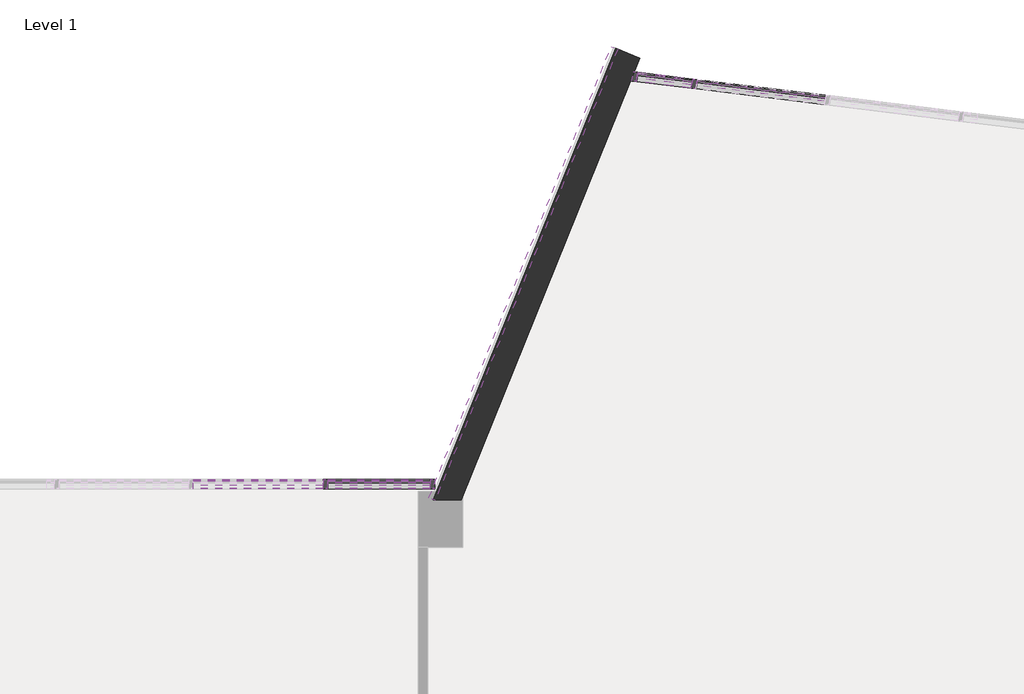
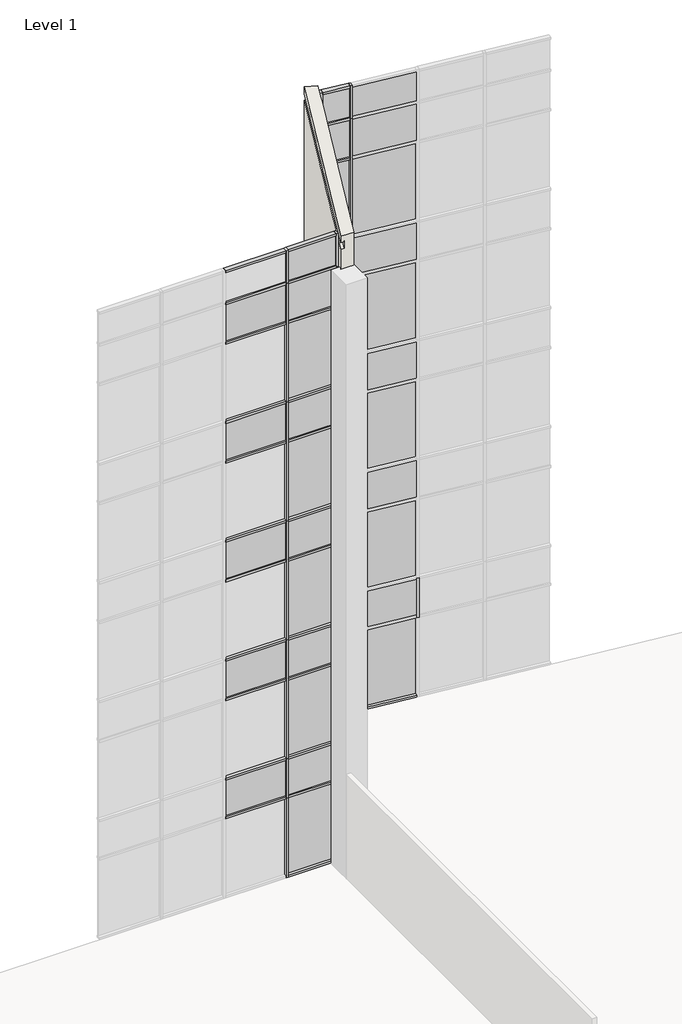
# One storey, part 15 of 23: 65 members, 38 plates, 3 proxies, 1 wall.
"""IFC4 building model written with IfcOpenShell, lengths in millimetres."""

from ifc_helpers import new_model, si_unit, frame, origin, place, context, project, spatial, polyline, outline, extrude, faceted_brep, transform, mapped, element, save
from components import member_2b49869a, member_f92b8aa2, member_810865a4, member_f0fea5a5, member_6d5c3e5e, member_9764dd38, member_8e09d03a, member_4d31274b, member_9db209c3, member_bbc63846, member_ee409385, member_75074519, member_2adbf4d9, member_705e9429, system_panel_glazed_14c75400, system_panel_glazed_df53f363, system_panel_glazed_6d390525, system_panel_solid_5dfe6f83, system_panel_solid_e25e2004, system_panel_solid_b7551183, system_panel_solid_cf908f75, system_panel_solid_7b03d3b8, system_panel_solid_c28df52d, system_panel_solid_db451ef0, system_panel_solid_2f6d7fa1, system_panel_solid_37f52b2b

model = new_model("IFC4")

# Units and contexts
model_context = context("Model", 3, world=origin())
ifc_project = project(units=[si_unit("LENGTHUNIT", "METRE", prefix="MILLI")], contexts=[model_context])

# Site, building, storey
site = spatial("IfcSite", under=ifc_project)
building = spatial("IfcBuilding", under=site)
storey = spatial("IfcBuildingStorey", under=building, Name="Level 1", Elevation=0.0)

# Proxies
placement = place(None, origin())
element("IfcBuildingElementProxy", 1, Name="Reveals", at=placement, inside=storey, context=model_context, shape_type="SweptSolid", body=[
    extrude(outline(polyline([(-32824.629873, 9795.5496433), (-32910.0003265, 9830.0415454), (-30426.2719644, 15977.4849617), (-30340.901511, 15942.9930596), (-32824.629873, 9795.5496433)])), frame((0.0, 0.0, 1625.6), z_axis=(0.0, 0.0, 1.0), x_axis=(1.0, 0.0, 0.0)), (0.0, 0.0, 1.0), 67.7333333),
])
element("IfcBuildingElementProxy", 2, Name="Reveals", at=placement, inside=storey, context=model_context, shape_type="SweptSolid", body=[
    extrude(outline(polyline([(-32824.629873, 9795.5496433), (-32910.0003265, 9830.0415454), (-30426.2719644, 15977.4849617), (-30340.901511, 15942.9930596), (-32824.629873, 9795.5496433)])), frame((0.0, 0.0, 2235.2), z_axis=(0.0, 0.0, 1.0), x_axis=(1.0, 0.0, 0.0)), (0.0, 0.0, 1.0), 67.7333333),
])
element("IfcBuildingElementProxy", 3, Name="Reveals", at=placement, inside=storey, context=model_context, shape_type="SweptSolid", body=[
    extrude(outline(polyline([(-32824.629873, 9795.5496433), (-32910.0003265, 9830.0415454), (-30426.2719644, 15977.4849617), (-30340.901511, 15942.9930596), (-32824.629873, 9795.5496433)])), frame((0.0, 0.0, 2844.8), z_axis=(0.0, 0.0, 1.0), x_axis=(1.0, 0.0, 0.0)), (0.0, 0.0, 1.0), 67.7333333),
])

# Members
member_shape = member_2b49869a(model_context)
element("IfcMember", 4, ObjectType="Rectangular Mullion : 2.5\" x 5\" rectangular", at=placement, inside=storey, context=model_context, shape_type="MappedRepresentation", body=[
    mapped(member_shape, transform((-27482.5203826, 15245.7903744, 2438.4), x_axis=(0.9925461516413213, -0.12186934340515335, 0.0), y_axis=(-0.12186934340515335, -0.9925461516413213, 0.0), z_axis=(0.0, 0.0, -1.0))),
])
element("IfcMember", 5, ObjectType="Rectangular Mullion : 2.5\" x 5\" rectangular", at=placement, inside=storey, context=model_context, shape_type="MappedRepresentation", body=[
    mapped(member_shape, transform((-29297.6887847, 15468.6650296, 2438.4), x_axis=(0.9925461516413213, -0.12186934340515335, 0.0), y_axis=(-0.12186934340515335, -0.9925461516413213, 0.0), z_axis=(0.0, 0.0, -1.0))),
])
element("IfcMember", 6, ObjectType="Rectangular Mullion : 2.5\" x 5\" rectangular", at=placement, inside=storey, context=model_context, shape_type="MappedRepresentation", body=[
    mapped(member_shape, transform((-34316.2623649, 10017.7896508, 2438.4), x_axis=(1.0, 0.0, 0.0), y_axis=(0.0, -1.0, 0.0), z_axis=(0.0, 0.0, -1.0))),
])
member_2_shape = member_f92b8aa2(model_context)
element("IfcMember", 7, ObjectType="Rectangular Mullion : 2.5\" x 5\" rectangular", at=placement, inside=storey, context=model_context, shape_type="MappedRepresentation", body=[
    mapped(member_2_shape, transform((-29297.6887847, 15468.6650296, 18288.0), x_axis=(0.9925461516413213, -0.12186934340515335, 0.0), y_axis=(-0.12186934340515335, -0.9925461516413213, 0.0), z_axis=(0.0, 0.0, -1.0))),
])
element("IfcMember", 8, ObjectType="Rectangular Mullion : 2.5\" x 5\" rectangular", at=placement, inside=storey, context=model_context, shape_type="MappedRepresentation", body=[
    mapped(member_2_shape, transform((-34316.2623649, 10017.7896508, 18288.0), x_axis=(1.0, 0.0, 0.0), y_axis=(0.0, -1.0, 0.0), z_axis=(0.0, 0.0, -1.0))),
])
member_3_shape = member_810865a4(model_context)
element("IfcMember", 9, ObjectType="Rectangular Mullion : 2.5\" x 5\" rectangular", at=placement, inside=storey, context=model_context, shape_type="MappedRepresentation", body=[
    mapped(member_3_shape, transform((-29297.6887847, 15468.6650296, 14630.4), x_axis=(0.9925461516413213, -0.12186934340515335, 0.0), y_axis=(-0.12186934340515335, -0.9925461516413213, 0.0), z_axis=(0.0, 0.0, -1.0))),
])
element("IfcMember", 10, ObjectType="Rectangular Mullion : 2.5\" x 5\" rectangular", at=placement, inside=storey, context=model_context, shape_type="MappedRepresentation", body=[
    mapped(member_3_shape, transform((-29297.6887847, 15468.6650296, 10972.8), x_axis=(0.9925461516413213, -0.12186934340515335, 0.0), y_axis=(-0.12186934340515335, -0.9925461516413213, 0.0), z_axis=(0.0, 0.0, -1.0))),
])
element("IfcMember", 11, ObjectType="Rectangular Mullion : 2.5\" x 5\" rectangular", at=placement, inside=storey, context=model_context, shape_type="MappedRepresentation", body=[
    mapped(member_3_shape, transform((-29297.6887847, 15468.6650296, 7315.2), x_axis=(0.9925461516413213, -0.12186934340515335, 0.0), y_axis=(-0.12186934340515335, -0.9925461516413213, 0.0), z_axis=(0.0, 0.0, -1.0))),
])
element("IfcMember", 12, ObjectType="Rectangular Mullion : 2.5\" x 5\" rectangular", at=placement, inside=storey, context=model_context, shape_type="MappedRepresentation", body=[
    mapped(member_3_shape, transform((-29297.6887847, 15468.6650296, 3657.6), x_axis=(0.9925461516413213, -0.12186934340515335, 0.0), y_axis=(-0.12186934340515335, -0.9925461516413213, 0.0), z_axis=(0.0, 0.0, -1.0))),
])
element("IfcMember", 13, ObjectType="Rectangular Mullion : 2.5\" x 5\" rectangular", at=placement, inside=storey, context=model_context, shape_type="MappedRepresentation", body=[
    mapped(member_3_shape, transform((-34316.2623649, 10017.7896508, 14630.4), x_axis=(1.0, 0.0, 0.0), y_axis=(0.0, -1.0, 0.0), z_axis=(0.0, 0.0, -1.0))),
])
element("IfcMember", 14, ObjectType="Rectangular Mullion : 2.5\" x 5\" rectangular", at=placement, inside=storey, context=model_context, shape_type="MappedRepresentation", body=[
    mapped(member_3_shape, transform((-34316.2623649, 10017.7896508, 10972.8), x_axis=(1.0, 0.0, 0.0), y_axis=(0.0, -1.0, 0.0), z_axis=(0.0, 0.0, -1.0))),
])
element("IfcMember", 15, ObjectType="Rectangular Mullion : 2.5\" x 5\" rectangular", at=placement, inside=storey, context=model_context, shape_type="MappedRepresentation", body=[
    mapped(member_3_shape, transform((-34316.2623649, 10017.7896508, 7315.2), x_axis=(1.0, 0.0, 0.0), y_axis=(0.0, -1.0, 0.0), z_axis=(0.0, 0.0, -1.0))),
])
element("IfcMember", 16, ObjectType="Rectangular Mullion : 2.5\" x 5\" rectangular", at=placement, inside=storey, context=model_context, shape_type="MappedRepresentation", body=[
    mapped(member_3_shape, transform((-34316.2623649, 10017.7896508, 3657.6), x_axis=(1.0, 0.0, 0.0), y_axis=(0.0, -1.0, 0.0), z_axis=(0.0, 0.0, -1.0))),
])
member_4_shape = member_f0fea5a5(model_context)
element("IfcMember", 17, ObjectType="Rectangular Mullion : 2.5\" x 5\" rectangular", at=placement, inside=storey, context=model_context, shape_type="MappedRepresentation", body=[
    mapped(member_4_shape, transform((-29297.6887847, 15468.6650296, 0.0), x_axis=(0.9925461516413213, -0.12186934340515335, 0.0), y_axis=(-0.12186934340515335, -0.9925461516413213, 0.0), z_axis=(0.0, 0.0, -1.0))),
])
element("IfcMember", 18, ObjectType="Rectangular Mullion : 2.5\" x 5\" rectangular", at=placement, inside=storey, context=model_context, shape_type="MappedRepresentation", body=[
    mapped(member_4_shape, transform((-34316.2623649, 10017.7896508, 0.0), x_axis=(1.0, 0.0, 0.0), y_axis=(0.0, -1.0, 0.0), z_axis=(0.0, 0.0, -1.0))),
])
member_5_shape = member_6d5c3e5e(model_context)
element("IfcMember", 19, ObjectType="Rectangular Mullion : 2.5\" x 5\" rectangular", at=placement, inside=storey, context=model_context, shape_type="MappedRepresentation", body=[
    mapped(member_5_shape, transform((-34348.0123649, 10017.7896508, 19304.0), x_axis=(0.0, 0.0, 1.0), y_axis=(0.0, -1.0, 0.0), z_axis=(1.0, 0.0, 0.0))),
])
member_6_shape = member_9764dd38(model_context)
element("IfcMember", 20, ObjectType="Rectangular Mullion : 2.5\" x 5\" rectangular", at=placement, inside=storey, context=model_context, shape_type="MappedRepresentation", body=[
    mapped(member_6_shape, transform((-34348.0123649, 10017.7896508, 17068.8), x_axis=(0.0, 0.0, 1.0), y_axis=(0.0, -1.0, 0.0), z_axis=(1.0, 0.0, 0.0))),
])
element("IfcMember", 21, ObjectType="Rectangular Mullion : 2.5\" x 5\" rectangular", at=placement, inside=storey, context=model_context, shape_type="MappedRepresentation", body=[
    mapped(member_6_shape, transform((-34348.0123649, 10017.7896508, 13411.2), x_axis=(0.0, 0.0, 1.0), y_axis=(0.0, -1.0, 0.0), z_axis=(1.0, 0.0, 0.0))),
])
element("IfcMember", 22, ObjectType="Rectangular Mullion : 2.5\" x 5\" rectangular", at=placement, inside=storey, context=model_context, shape_type="MappedRepresentation", body=[
    mapped(member_6_shape, transform((-34348.0123649, 10017.7896508, 9753.6), x_axis=(0.0, 0.0, 1.0), y_axis=(0.0, -1.0, 0.0), z_axis=(1.0, 0.0, 0.0))),
])
element("IfcMember", 23, ObjectType="Rectangular Mullion : 2.5\" x 5\" rectangular", at=placement, inside=storey, context=model_context, shape_type="MappedRepresentation", body=[
    mapped(member_6_shape, transform((-34348.0123649, 10017.7896508, 6096.0), x_axis=(0.0, 0.0, 1.0), y_axis=(0.0, -1.0, 0.0), z_axis=(1.0, 0.0, 0.0))),
])
element("IfcMember", 24, ObjectType="Rectangular Mullion : 2.5\" x 5\" rectangular", at=placement, inside=storey, context=model_context, shape_type="MappedRepresentation", body=[
    mapped(member_6_shape, transform((-34348.0123649, 10017.7896508, 2470.15), x_axis=(0.0, 0.0, 1.0), y_axis=(0.0, -1.0, 0.0), z_axis=(1.0, 0.0, 0.0))),
])
element("IfcMember", 25, ObjectType="Rectangular Mullion : 2.5\" x 5\" rectangular", at=placement, inside=storey, context=model_context, shape_type="MappedRepresentation", body=[
    mapped(member_5_shape, transform((-29266.1754444, 15464.7956779, 0.0), x_axis=(0.0, 0.0, -1.0), y_axis=(-0.12186934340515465, -0.9925461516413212, 0.0), z_axis=(-0.9925461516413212, 0.12186934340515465, 0.0))),
])
element("IfcMember", 26, ObjectType="Rectangular Mullion : 2.5\" x 5\" rectangular", at=placement, inside=storey, context=model_context, shape_type="MappedRepresentation", body=[
    mapped(member_6_shape, transform((-34348.0123649, 10017.7896508, 10972.8), x_axis=(0.0, 0.0, 1.0), y_axis=(0.0, -1.0, 0.0), z_axis=(1.0, 0.0, 0.0))),
])
element("IfcMember", 27, ObjectType="Rectangular Mullion : 2.5\" x 5\" rectangular", at=placement, inside=storey, context=model_context, shape_type="MappedRepresentation", body=[
    mapped(member_6_shape, transform((-34348.0123649, 10017.7896508, 7315.2), x_axis=(0.0, 0.0, 1.0), y_axis=(0.0, -1.0, 0.0), z_axis=(1.0, 0.0, 0.0))),
])
element("IfcMember", 28, ObjectType="Rectangular Mullion : 2.5\" x 5\" rectangular", at=placement, inside=storey, context=model_context, shape_type="MappedRepresentation", body=[
    mapped(member_6_shape, transform((-34348.0123649, 10017.7896508, 18288.0), x_axis=(0.0, 0.0, 1.0), y_axis=(0.0, -1.0, 0.0), z_axis=(1.0, 0.0, 0.0))),
])
element("IfcMember", 29, ObjectType="Rectangular Mullion : 2.5\" x 5\" rectangular", at=placement, inside=storey, context=model_context, shape_type="MappedRepresentation", body=[
    mapped(member_6_shape, transform((-34348.0123649, 10017.7896508, 14630.4), x_axis=(0.0, 0.0, 1.0), y_axis=(0.0, -1.0, 0.0), z_axis=(1.0, 0.0, 0.0))),
])
element("IfcMember", 30, ObjectType="Rectangular Mullion : 2.5\" x 5\" rectangular", at=placement, inside=storey, context=model_context, shape_type="MappedRepresentation", body=[
    mapped(member_6_shape, transform((-34348.0123649, 10017.7896508, 3657.6), x_axis=(0.0, 0.0, 1.0), y_axis=(0.0, -1.0, 0.0), z_axis=(1.0, 0.0, 0.0))),
])
member_7_shape = member_8e09d03a(model_context)
element("IfcMember", 31, ObjectType="Rectangular Mullion : 2.5\" x 5\" rectangular", at=placement, inside=storey, context=model_context, shape_type="MappedRepresentation", body=[
    mapped(member_7_shape, transform((-30138.1413273, 15571.859626, 19304.0), x_axis=(-0.9925461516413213, 0.12186934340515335, 0.0), y_axis=(-0.12186934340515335, -0.9925461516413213, 0.0), z_axis=(0.0, 0.0, 1.0))),
])
member_8_shape = member_4d31274b(model_context)
element("IfcMember", 32, ObjectType="Rectangular Mullion : 2.5\" x 5\" rectangular", at=placement, inside=storey, context=model_context, shape_type="MappedRepresentation", body=[
    mapped(member_8_shape, transform((-30138.1413273, 15571.859626, 7315.2), x_axis=(-0.9925461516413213, 0.12186934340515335, 0.0), y_axis=(-0.12186934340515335, -0.9925461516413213, 0.0), z_axis=(0.0, 0.0, 1.0))),
])
element("IfcMember", 33, ObjectType="Rectangular Mullion : 2.5\" x 5\" rectangular", at=placement, inside=storey, context=model_context, shape_type="MappedRepresentation", body=[
    mapped(member_8_shape, transform((-30138.1413273, 15571.859626, 10972.8), x_axis=(-0.9925461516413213, 0.12186934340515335, 0.0), y_axis=(-0.12186934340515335, -0.9925461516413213, 0.0), z_axis=(0.0, 0.0, 1.0))),
])
element("IfcMember", 34, ObjectType="Rectangular Mullion : 2.5\" x 5\" rectangular", at=placement, inside=storey, context=model_context, shape_type="MappedRepresentation", body=[
    mapped(member_8_shape, transform((-30138.1413273, 15571.859626, 14630.4), x_axis=(-0.9925461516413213, 0.12186934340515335, 0.0), y_axis=(-0.12186934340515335, -0.9925461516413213, 0.0), z_axis=(0.0, 0.0, 1.0))),
])
element("IfcMember", 35, ObjectType="Rectangular Mullion : 2.5\" x 5\" rectangular", at=placement, inside=storey, context=model_context, shape_type="MappedRepresentation", body=[
    mapped(member_8_shape, transform((-30138.1413273, 15571.859626, 18288.0), x_axis=(-0.9925461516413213, 0.12186934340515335, 0.0), y_axis=(-0.12186934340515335, -0.9925461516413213, 0.0), z_axis=(0.0, 0.0, 1.0))),
])
member_9_shape = member_9db209c3(model_context)
element("IfcMember", 36, ObjectType="Rectangular Mullion : 2.5\" x 5\" rectangular", at=placement, inside=storey, context=model_context, shape_type="MappedRepresentation", body=[
    mapped(member_9_shape, transform((-32890.1647338, 10017.7896508, 10972.8), x_axis=(0.0, 0.0, 1.0), y_axis=(0.0, -1.0, 0.0), z_axis=(1.0, 0.0, 0.0))),
])
element("IfcMember", 37, ObjectType="Rectangular Mullion : 2.5\" x 5\" rectangular", at=placement, inside=storey, context=model_context, shape_type="MappedRepresentation", body=[
    mapped(member_9_shape, transform((-32890.1647338, 10017.7896508, 7315.2), x_axis=(0.0, 0.0, 1.0), y_axis=(0.0, -1.0, 0.0), z_axis=(1.0, 0.0, 0.0))),
])
element("IfcMember", 38, ObjectType="Rectangular Mullion : 2.5\" x 5\" rectangular", at=placement, inside=storey, context=model_context, shape_type="MappedRepresentation", body=[
    mapped(member_9_shape, transform((-32890.1647338, 10017.7896508, 18288.0), x_axis=(0.0, 0.0, 1.0), y_axis=(0.0, -1.0, 0.0), z_axis=(1.0, 0.0, 0.0))),
])
element("IfcMember", 39, ObjectType="Rectangular Mullion : 2.5\" x 5\" rectangular", at=placement, inside=storey, context=model_context, shape_type="MappedRepresentation", body=[
    mapped(member_9_shape, transform((-32890.1647338, 10017.7896508, 14630.4), x_axis=(0.0, 0.0, 1.0), y_axis=(0.0, -1.0, 0.0), z_axis=(1.0, 0.0, 0.0))),
])
element("IfcMember", 40, ObjectType="Rectangular Mullion : 2.5\" x 5\" rectangular", at=placement, inside=storey, context=model_context, shape_type="MappedRepresentation", body=[
    mapped(member_9_shape, transform((-32890.1647338, 10017.7896508, 3657.6), x_axis=(0.0, 0.0, 1.0), y_axis=(0.0, -1.0, 0.0), z_axis=(1.0, 0.0, 0.0))),
])
member_10_shape = member_bbc63846(model_context)
element("IfcMember", 41, ObjectType="Rectangular Mullion : 2.5\" x 5\" rectangular", at=placement, inside=storey, context=model_context, shape_type="MappedRepresentation", body=[
    mapped(member_10_shape, transform((-34284.5123649, 10017.7896508, 0.0), x_axis=(0.0, 0.0, -1.0), y_axis=(0.0, -1.0, 0.0), z_axis=(-1.0, 0.0, 0.0))),
])
element("IfcMember", 42, ObjectType="Rectangular Mullion : 2.5\" x 5\" rectangular", at=placement, inside=storey, context=model_context, shape_type="MappedRepresentation", body=[
    mapped(member_10_shape, transform((-32890.1647338, 10017.7896508, 19304.0), x_axis=(0.0, 0.0, 1.0), y_axis=(0.0, -1.0, 0.0), z_axis=(1.0, 0.0, 0.0))),
])
element("IfcMember", 43, ObjectType="Rectangular Mullion : 2.5\" x 5\" rectangular", at=placement, inside=storey, context=model_context, shape_type="MappedRepresentation", body=[
    mapped(member_9_shape, transform((-32890.1647338, 10017.7896508, 17068.8), x_axis=(0.0, 0.0, 1.0), y_axis=(0.0, -1.0, 0.0), z_axis=(1.0, 0.0, 0.0))),
])
element("IfcMember", 44, ObjectType="Rectangular Mullion : 2.5\" x 5\" rectangular", at=placement, inside=storey, context=model_context, shape_type="MappedRepresentation", body=[
    mapped(member_9_shape, transform((-32890.1647338, 10017.7896508, 13411.2), x_axis=(0.0, 0.0, 1.0), y_axis=(0.0, -1.0, 0.0), z_axis=(1.0, 0.0, 0.0))),
])
element("IfcMember", 45, ObjectType="Rectangular Mullion : 2.5\" x 5\" rectangular", at=placement, inside=storey, context=model_context, shape_type="MappedRepresentation", body=[
    mapped(member_9_shape, transform((-32890.1647338, 10017.7896508, 9753.6), x_axis=(0.0, 0.0, 1.0), y_axis=(0.0, -1.0, 0.0), z_axis=(1.0, 0.0, 0.0))),
])
element("IfcMember", 46, ObjectType="Rectangular Mullion : 2.5\" x 5\" rectangular", at=placement, inside=storey, context=model_context, shape_type="MappedRepresentation", body=[
    mapped(member_9_shape, transform((-32890.1647338, 10017.7896508, 6096.0), x_axis=(0.0, 0.0, 1.0), y_axis=(0.0, -1.0, 0.0), z_axis=(1.0, 0.0, 0.0))),
])
element("IfcMember", 47, ObjectType="Rectangular Mullion : 2.5\" x 5\" rectangular", at=placement, inside=storey, context=model_context, shape_type="MappedRepresentation", body=[
    mapped(member_9_shape, transform((-32890.1647338, 10017.7896508, 2470.15), x_axis=(0.0, 0.0, 1.0), y_axis=(0.0, -1.0, 0.0), z_axis=(1.0, 0.0, 0.0))),
])
member_11_shape = member_ee409385(model_context)
element("IfcMember", 48, ObjectType="Rectangular Mullion : 2.5\" x 5\" rectangular", at=placement, inside=storey, context=model_context, shape_type="MappedRepresentation", body=[
    mapped(member_11_shape, transform((-32826.6647338, 10017.7896508, 0.0), x_axis=(1.0, 0.0, 0.0), y_axis=(0.0, -1.0, 0.0), z_axis=(0.0, 0.0, -1.0))),
])
element("IfcMember", 49, ObjectType="Rectangular Mullion : 2.5\" x 5\" rectangular", at=placement, inside=storey, context=model_context, shape_type="MappedRepresentation", body=[
    mapped(member_8_shape, transform((-32826.6647338, 10017.7896508, 3657.6), x_axis=(1.0, 0.0, 0.0), y_axis=(0.0, -1.0, 0.0), z_axis=(0.0, 0.0, -1.0))),
])
element("IfcMember", 50, ObjectType="Rectangular Mullion : 2.5\" x 5\" rectangular", at=placement, inside=storey, context=model_context, shape_type="MappedRepresentation", body=[
    mapped(member_8_shape, transform((-32826.6647338, 10017.7896508, 7315.2), x_axis=(1.0, 0.0, 0.0), y_axis=(0.0, -1.0, 0.0), z_axis=(0.0, 0.0, -1.0))),
])
element("IfcMember", 51, ObjectType="Rectangular Mullion : 2.5\" x 5\" rectangular", at=placement, inside=storey, context=model_context, shape_type="MappedRepresentation", body=[
    mapped(member_8_shape, transform((-32826.6647338, 10017.7896508, 10972.8), x_axis=(1.0, 0.0, 0.0), y_axis=(0.0, -1.0, 0.0), z_axis=(0.0, 0.0, -1.0))),
])
element("IfcMember", 52, ObjectType="Rectangular Mullion : 2.5\" x 5\" rectangular", at=placement, inside=storey, context=model_context, shape_type="MappedRepresentation", body=[
    mapped(member_8_shape, transform((-32826.6647338, 10017.7896508, 14630.4), x_axis=(1.0, 0.0, 0.0), y_axis=(0.0, -1.0, 0.0), z_axis=(0.0, 0.0, -1.0))),
])
element("IfcMember", 53, ObjectType="Rectangular Mullion : 2.5\" x 5\" rectangular", at=placement, inside=storey, context=model_context, shape_type="MappedRepresentation", body=[
    mapped(member_7_shape, transform((-32826.6647338, 10017.7896508, 18288.0), x_axis=(1.0, 0.0, 0.0), y_axis=(0.0, -1.0, 0.0), z_axis=(0.0, 0.0, -1.0))),
])
member_12_shape = member_75074519(model_context)
element("IfcMember", 54, ObjectType="Rectangular Mullion : 2.5\" x 5\" rectangular", at=placement, inside=storey, context=model_context, shape_type="MappedRepresentation", body=[
    mapped(member_12_shape, transform((-32826.6647338, 10017.7896508, 2438.4), x_axis=(1.0, 0.0, 0.0), y_axis=(0.0, -1.0, 0.0), z_axis=(0.0, 0.0, -1.0))),
])
member_13_shape = member_2adbf4d9(model_context)
element("IfcMember", 55, ObjectType="Rectangular Mullion : 2.5\" x 5\" rectangular", at=placement, inside=storey, context=model_context, shape_type="MappedRepresentation", body=[
    mapped(member_13_shape, transform((-29329.202125, 15472.5343812, 19304.0), x_axis=(0.0, 0.0, 1.0), y_axis=(-0.1218693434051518, -0.9925461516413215, 0.0), z_axis=(0.9925461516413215, -0.1218693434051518, 0.0))),
])
member_14_shape = member_705e9429(model_context)
element("IfcMember", 56, ObjectType="Rectangular Mullion : 2.5\" x 5\" rectangular", at=placement, inside=storey, context=model_context, shape_type="MappedRepresentation", body=[
    mapped(member_14_shape, transform((-29329.202125, 15472.5343812, 10972.8), x_axis=(0.0, 0.0, 1.0), y_axis=(-0.12186934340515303, -0.9925461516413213, 0.0), z_axis=(0.9925461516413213, -0.12186934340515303, 0.0))),
])
element("IfcMember", 57, ObjectType="Rectangular Mullion : 2.5\" x 5\" rectangular", at=placement, inside=storey, context=model_context, shape_type="MappedRepresentation", body=[
    mapped(member_14_shape, transform((-29329.202125, 15472.5343812, 7315.2), x_axis=(0.0, 0.0, 1.0), y_axis=(-0.1218693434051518, -0.9925461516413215, 0.0), z_axis=(0.9925461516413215, -0.1218693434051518, 0.0))),
])
element("IfcMember", 58, ObjectType="Rectangular Mullion : 2.5\" x 5\" rectangular", at=placement, inside=storey, context=model_context, shape_type="MappedRepresentation", body=[
    mapped(member_14_shape, transform((-29329.202125, 15472.5343812, 18288.0), x_axis=(0.0, 0.0, 1.0), y_axis=(-0.1218693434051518, -0.9925461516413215, 0.0), z_axis=(0.9925461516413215, -0.1218693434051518, 0.0))),
])
element("IfcMember", 59, ObjectType="Rectangular Mullion : 2.5\" x 5\" rectangular", at=placement, inside=storey, context=model_context, shape_type="MappedRepresentation", body=[
    mapped(member_14_shape, transform((-29329.202125, 15472.5343812, 14630.4), x_axis=(0.0, 0.0, 1.0), y_axis=(-0.12186934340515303, -0.9925461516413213, 0.0), z_axis=(0.9925461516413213, -0.12186934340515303, 0.0))),
])
element("IfcMember", 60, ObjectType="Rectangular Mullion : 2.5\" x 5\" rectangular", at=placement, inside=storey, context=model_context, shape_type="MappedRepresentation", body=[
    mapped(member_14_shape, transform((-29329.202125, 15472.5343812, 3657.6), x_axis=(0.0, 0.0, 1.0), y_axis=(-0.12186934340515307, -0.9925461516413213, 0.0), z_axis=(0.9925461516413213, -0.12186934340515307, 0.0))),
])
element("IfcMember", 61, ObjectType="Rectangular Mullion : 2.5\" x 5\" rectangular", at=placement, inside=storey, context=model_context, shape_type="MappedRepresentation", body=[
    mapped(member_13_shape, transform((-30075.1146466, 15564.1209227, 0.0), x_axis=(0.0, 0.0, -1.0), y_axis=(-0.1218693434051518, -0.9925461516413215, 0.0), z_axis=(-0.9925461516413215, 0.1218693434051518, 0.0))),
])
element("IfcMember", 62, ObjectType="Rectangular Mullion : 2.5\" x 5\" rectangular", at=placement, inside=storey, context=model_context, shape_type="MappedRepresentation", body=[
    mapped(member_14_shape, transform((-29329.202125, 15472.5343812, 17068.8), x_axis=(0.0, 0.0, 1.0), y_axis=(-0.121869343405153, -0.9925461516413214, 0.0), z_axis=(0.9925461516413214, -0.121869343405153, 0.0))),
])
element("IfcMember", 63, ObjectType="Rectangular Mullion : 2.5\" x 5\" rectangular", at=placement, inside=storey, context=model_context, shape_type="MappedRepresentation", body=[
    mapped(member_14_shape, transform((-29329.202125, 15472.5343812, 13411.2), x_axis=(0.0, 0.0, 1.0), y_axis=(-0.12186934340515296, -0.9925461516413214, 0.0), z_axis=(0.9925461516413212, -0.12186934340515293, 0.0))),
])
element("IfcMember", 64, ObjectType="Rectangular Mullion : 2.5\" x 5\" rectangular", at=placement, inside=storey, context=model_context, shape_type="MappedRepresentation", body=[
    mapped(member_14_shape, transform((-29329.202125, 15472.5343812, 9753.6), x_axis=(0.0, 0.0, 1.0), y_axis=(-0.121869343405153, -0.9925461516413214, 0.0), z_axis=(0.9925461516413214, -0.121869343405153, 0.0))),
])
element("IfcMember", 65, ObjectType="Rectangular Mullion : 2.5\" x 5\" rectangular", at=placement, inside=storey, context=model_context, shape_type="MappedRepresentation", body=[
    mapped(member_14_shape, transform((-29329.202125, 15472.5343812, 6096.0), x_axis=(0.0, 0.0, 1.0), y_axis=(-0.12186934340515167, -0.9925461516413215, 0.0), z_axis=(0.9925461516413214, -0.12186934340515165, 0.0))),
])
element("IfcMember", 66, ObjectType="Rectangular Mullion : 2.5\" x 5\" rectangular", at=placement, inside=storey, context=model_context, shape_type="MappedRepresentation", body=[
    mapped(member_14_shape, transform((-29329.202125, 15472.5343812, 2470.15), x_axis=(0.0, 0.0, 1.0), y_axis=(-0.12186934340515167, -0.9925461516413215, 0.0), z_axis=(0.9925461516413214, -0.12186934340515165, 0.0))),
])
element("IfcMember", 67, ObjectType="Rectangular Mullion : 2.5\" x 5\" rectangular", at=placement, inside=storey, context=model_context, shape_type="MappedRepresentation", body=[
    mapped(member_11_shape, transform((-30138.1413273, 15571.859626, 2438.4), x_axis=(-0.9925461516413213, 0.12186934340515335, 0.0), y_axis=(-0.12186934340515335, -0.9925461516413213, 0.0), z_axis=(0.0, 0.0, 1.0))),
])
element("IfcMember", 68, ObjectType="Rectangular Mullion : 2.5\" x 5\" rectangular", at=placement, inside=storey, context=model_context, shape_type="MappedRepresentation", body=[
    mapped(member_12_shape, transform((-30138.1413273, 15571.859626, 3657.6), x_axis=(-0.9925461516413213, 0.12186934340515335, 0.0), y_axis=(-0.12186934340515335, -0.9925461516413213, 0.0), z_axis=(0.0, 0.0, 1.0))),
])

# Plates
system_panel_glazed_shape = system_panel_glazed_14c75400(model_context)
element("IfcPlate", 69, ObjectType="System Panel : Glazed", at=placement, inside=storey, context=model_context, shape_type="MappedRepresentation", body=[
    mapped(system_panel_glazed_shape, transform((-28390.1045836, 15357.227702, 14662.15), x_axis=(0.9925461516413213, -0.12186934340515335, 0.0), y_axis=(0.12186934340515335, 0.9925461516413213, 0.0), z_axis=(0.0, 0.0, 1.0))),
])
element("IfcPlate", 70, ObjectType="System Panel : Glazed", at=placement, inside=storey, context=model_context, shape_type="MappedRepresentation", body=[
    mapped(system_panel_glazed_shape, transform((-28390.1045836, 15357.227702, 11004.55), x_axis=(0.9925461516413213, -0.12186934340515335, 0.0), y_axis=(0.12186934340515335, 0.9925461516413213, 0.0), z_axis=(0.0, 0.0, 1.0))),
])
element("IfcPlate", 71, ObjectType="System Panel : Glazed", at=placement, inside=storey, context=model_context, shape_type="MappedRepresentation", body=[
    mapped(system_panel_glazed_shape, transform((-28390.1045836, 15357.227702, 7346.95), x_axis=(0.9925461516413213, -0.12186934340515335, 0.0), y_axis=(0.12186934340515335, 0.9925461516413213, 0.0), z_axis=(0.0, 0.0, 1.0))),
])
element("IfcPlate", 72, ObjectType="System Panel : Glazed", at=placement, inside=storey, context=model_context, shape_type="MappedRepresentation", body=[
    mapped(system_panel_glazed_shape, transform((-28390.1045836, 15357.227702, 3689.35), x_axis=(0.9925461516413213, -0.12186934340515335, 0.0), y_axis=(0.12186934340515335, 0.9925461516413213, 0.0), z_axis=(0.0, 0.0, 1.0))),
])
element("IfcPlate", 73, ObjectType="System Panel : Glazed", at=placement, inside=storey, context=model_context, shape_type="MappedRepresentation", body=[
    mapped(system_panel_glazed_shape, transform((-28390.1045836, 15357.227702, 63.5), x_axis=(0.9925461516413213, -0.12186934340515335, 0.0), y_axis=(0.12186934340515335, 0.9925461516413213, 0.0), z_axis=(0.0, 0.0, 1.0))),
])
system_panel_glazed_2_shape = system_panel_glazed_df53f363(model_context)
element("IfcPlate", 74, ObjectType="System Panel : Glazed", at=placement, inside=storey, context=model_context, shape_type="MappedRepresentation", body=[
    mapped(system_panel_glazed_2_shape, transform((-33587.3385494, 10017.7896508, 14662.15), x_axis=(1.0, 0.0, 0.0), y_axis=(0.0, 1.0, 0.0), z_axis=(0.0, 0.0, 1.0))),
])
element("IfcPlate", 75, ObjectType="System Panel : Glazed", at=placement, inside=storey, context=model_context, shape_type="MappedRepresentation", body=[
    mapped(system_panel_glazed_2_shape, transform((-33587.3385494, 10017.7896508, 11004.55), x_axis=(1.0, 0.0, 0.0), y_axis=(0.0, 1.0, 0.0), z_axis=(0.0, 0.0, 1.0))),
])
element("IfcPlate", 76, ObjectType="System Panel : Glazed", at=placement, inside=storey, context=model_context, shape_type="MappedRepresentation", body=[
    mapped(system_panel_glazed_2_shape, transform((-33587.3385494, 10017.7896508, 7346.95), x_axis=(1.0, 0.0, 0.0), y_axis=(0.0, 1.0, 0.0), z_axis=(0.0, 0.0, 1.0))),
])
element("IfcPlate", 77, ObjectType="System Panel : Glazed", at=placement, inside=storey, context=model_context, shape_type="MappedRepresentation", body=[
    mapped(system_panel_glazed_2_shape, transform((-33587.3385494, 10017.7896508, 3689.35), x_axis=(1.0, 0.0, 0.0), y_axis=(0.0, 1.0, 0.0), z_axis=(0.0, 0.0, 1.0))),
])
element("IfcPlate", 78, ObjectType="System Panel : Glazed", at=placement, inside=storey, context=model_context, shape_type="MappedRepresentation", body=[
    mapped(system_panel_glazed_2_shape, transform((-33587.3385494, 10017.7896508, 63.5), x_axis=(1.0, 0.0, 0.0), y_axis=(0.0, 1.0, 0.0), z_axis=(0.0, 0.0, 1.0))),
])
system_panel_glazed_3_shape = system_panel_glazed_6d390525(model_context)
element("IfcPlate", 79, ObjectType="System Panel : Glazed", at=placement, inside=storey, context=model_context, shape_type="MappedRepresentation", body=[
    mapped(system_panel_glazed_3_shape, transform((-29702.1583858, 15518.327652, 14662.15), x_axis=(0.9925461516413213, -0.12186934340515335, 0.0), y_axis=(0.12186934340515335, 0.9925461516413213, 0.0), z_axis=(0.0, 0.0, 1.0))),
])
element("IfcPlate", 80, ObjectType="System Panel : Glazed", at=placement, inside=storey, context=model_context, shape_type="MappedRepresentation", body=[
    mapped(system_panel_glazed_3_shape, transform((-29702.1583858, 15518.327652, 11004.55), x_axis=(0.9925461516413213, -0.12186934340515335, 0.0), y_axis=(0.12186934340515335, 0.9925461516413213, 0.0), z_axis=(0.0, 0.0, 1.0))),
])
element("IfcPlate", 81, ObjectType="System Panel : Glazed", at=placement, inside=storey, context=model_context, shape_type="MappedRepresentation", body=[
    mapped(system_panel_glazed_3_shape, transform((-29702.1583858, 15518.327652, 7346.95), x_axis=(0.9925461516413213, -0.12186934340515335, 0.0), y_axis=(0.12186934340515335, 0.9925461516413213, 0.0), z_axis=(0.0, 0.0, 1.0))),
])
element("IfcPlate", 82, ObjectType="System Panel : Glazed", at=placement, inside=storey, context=model_context, shape_type="MappedRepresentation", body=[
    mapped(system_panel_glazed_3_shape, transform((-29702.1583858, 15518.327652, 3689.35), x_axis=(0.9925461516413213, -0.12186934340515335, 0.0), y_axis=(0.12186934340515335, 0.9925461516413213, 0.0), z_axis=(0.0, 0.0, 1.0))),
])
element("IfcPlate", 83, ObjectType="System Panel : Glazed", at=placement, inside=storey, context=model_context, shape_type="MappedRepresentation", body=[
    mapped(system_panel_glazed_3_shape, transform((-29702.1583858, 15518.327652, 63.5), x_axis=(0.9925461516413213, -0.12186934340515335, 0.0), y_axis=(0.12186934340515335, 0.9925461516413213, 0.0), z_axis=(0.0, 0.0, 1.0))),
])
system_panel_solid_shape = system_panel_solid_5dfe6f83(model_context)
element("IfcPlate", 84, ObjectType="System Panel : Solid", at=placement, inside=storey, context=model_context, shape_type="MappedRepresentation", body=[
    mapped(system_panel_solid_shape, transform((-28390.1045836, 15357.227702, 18319.75), x_axis=(0.9925461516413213, -0.12186934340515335, 0.0), y_axis=(0.12186934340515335, 0.9925461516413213, 0.0), z_axis=(0.0, 0.0, 1.0))),
])
system_panel_solid_2_shape = system_panel_solid_e25e2004(model_context)
element("IfcPlate", 85, ObjectType="System Panel : Solid", at=placement, inside=storey, context=model_context, shape_type="MappedRepresentation", body=[
    mapped(system_panel_solid_2_shape, transform((-35230.6623649, 10017.7896508, 17100.55), x_axis=(1.0, 0.0, 0.0), y_axis=(0.0, 1.0, 0.0), z_axis=(0.0, 0.0, 1.0))),
])
element("IfcPlate", 86, ObjectType="System Panel : Solid", at=placement, inside=storey, context=model_context, shape_type="MappedRepresentation", body=[
    mapped(system_panel_solid_2_shape, transform((-35230.6623649, 10017.7896508, 13442.95), x_axis=(1.0, 0.0, 0.0), y_axis=(0.0, 1.0, 0.0), z_axis=(0.0, 0.0, 1.0))),
])
element("IfcPlate", 87, ObjectType="System Panel : Solid", at=placement, inside=storey, context=model_context, shape_type="MappedRepresentation", body=[
    mapped(system_panel_solid_2_shape, transform((-28390.1045836, 15357.227702, 17100.55), x_axis=(0.9925461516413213, -0.12186934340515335, 0.0), y_axis=(0.12186934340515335, 0.9925461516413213, 0.0), z_axis=(0.0, 0.0, 1.0))),
])
element("IfcPlate", 88, ObjectType="System Panel : Solid", at=placement, inside=storey, context=model_context, shape_type="MappedRepresentation", body=[
    mapped(system_panel_solid_2_shape, transform((-28390.1045836, 15357.227702, 13442.95), x_axis=(0.9925461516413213, -0.12186934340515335, 0.0), y_axis=(0.12186934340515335, 0.9925461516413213, 0.0), z_axis=(0.0, 0.0, 1.0))),
])
element("IfcPlate", 89, ObjectType="System Panel : Solid", at=placement, inside=storey, context=model_context, shape_type="MappedRepresentation", body=[
    mapped(system_panel_solid_2_shape, transform((-35230.6623649, 10017.7896508, 9785.35), x_axis=(1.0, 0.0, 0.0), y_axis=(0.0, 1.0, 0.0), z_axis=(0.0, 0.0, 1.0))),
])
element("IfcPlate", 90, ObjectType="System Panel : Solid", at=placement, inside=storey, context=model_context, shape_type="MappedRepresentation", body=[
    mapped(system_panel_solid_2_shape, transform((-35230.6623649, 10017.7896508, 6127.75), x_axis=(1.0, 0.0, 0.0), y_axis=(0.0, 1.0, 0.0), z_axis=(0.0, 0.0, 1.0))),
])
element("IfcPlate", 91, ObjectType="System Panel : Solid", at=placement, inside=storey, context=model_context, shape_type="MappedRepresentation", body=[
    mapped(system_panel_solid_2_shape, transform((-28390.1045836, 15357.227702, 9785.35), x_axis=(0.9925461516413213, -0.12186934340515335, 0.0), y_axis=(0.12186934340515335, 0.9925461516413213, 0.0), z_axis=(0.0, 0.0, 1.0))),
])
element("IfcPlate", 92, ObjectType="System Panel : Solid", at=placement, inside=storey, context=model_context, shape_type="MappedRepresentation", body=[
    mapped(system_panel_solid_2_shape, transform((-28390.1045836, 15357.227702, 6127.75), x_axis=(0.9925461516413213, -0.12186934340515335, 0.0), y_axis=(0.12186934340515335, 0.9925461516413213, 0.0), z_axis=(0.0, 0.0, 1.0))),
])
system_panel_solid_3_shape = system_panel_solid_b7551183(model_context)
element("IfcPlate", 93, ObjectType="System Panel : Solid", at=placement, inside=storey, context=model_context, shape_type="MappedRepresentation", body=[
    mapped(system_panel_solid_3_shape, transform((-35230.6623649, 10017.7896508, 2501.9), x_axis=(1.0, 0.0, 0.0), y_axis=(0.0, 1.0, 0.0), z_axis=(0.0, 0.0, 1.0))),
])
element("IfcPlate", 94, ObjectType="System Panel : Solid", at=placement, inside=storey, context=model_context, shape_type="MappedRepresentation", body=[
    mapped(system_panel_solid_3_shape, transform((-28390.1045836, 15357.227702, 2501.9), x_axis=(0.9925461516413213, -0.12186934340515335, 0.0), y_axis=(0.12186934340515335, 0.9925461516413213, 0.0), z_axis=(0.0, 0.0, 1.0))),
])
system_panel_solid_4_shape = system_panel_solid_cf908f75(model_context)
element("IfcPlate", 95, ObjectType="System Panel : Solid", at=placement, inside=storey, context=model_context, shape_type="MappedRepresentation", body=[
    mapped(system_panel_solid_4_shape, transform((-33587.3385494, 10017.7896508, 18319.75), x_axis=(1.0, 0.0, 0.0), y_axis=(0.0, 1.0, 0.0), z_axis=(0.0, 0.0, 1.0))),
])
system_panel_solid_5_shape = system_panel_solid_7b03d3b8(model_context)
element("IfcPlate", 96, ObjectType="System Panel : Solid", at=placement, inside=storey, context=model_context, shape_type="MappedRepresentation", body=[
    mapped(system_panel_solid_5_shape, transform((-33587.3385494, 10017.7896508, 17100.55), x_axis=(1.0, 0.0, 0.0), y_axis=(0.0, 1.0, 0.0), z_axis=(0.0, 0.0, 1.0))),
])
element("IfcPlate", 97, ObjectType="System Panel : Solid", at=placement, inside=storey, context=model_context, shape_type="MappedRepresentation", body=[
    mapped(system_panel_solid_5_shape, transform((-33587.3385494, 10017.7896508, 13442.95), x_axis=(1.0, 0.0, 0.0), y_axis=(0.0, 1.0, 0.0), z_axis=(0.0, 0.0, 1.0))),
])
element("IfcPlate", 98, ObjectType="System Panel : Solid", at=placement, inside=storey, context=model_context, shape_type="MappedRepresentation", body=[
    mapped(system_panel_solid_5_shape, transform((-33587.3385494, 10017.7896508, 9785.35), x_axis=(1.0, 0.0, 0.0), y_axis=(0.0, 1.0, 0.0), z_axis=(0.0, 0.0, 1.0))),
])
element("IfcPlate", 99, ObjectType="System Panel : Solid", at=placement, inside=storey, context=model_context, shape_type="MappedRepresentation", body=[
    mapped(system_panel_solid_5_shape, transform((-33587.3385494, 10017.7896508, 6127.75), x_axis=(1.0, 0.0, 0.0), y_axis=(0.0, 1.0, 0.0), z_axis=(0.0, 0.0, 1.0))),
])
system_panel_solid_6_shape = system_panel_solid_c28df52d(model_context)
element("IfcPlate", 100, ObjectType="System Panel : Solid", at=placement, inside=storey, context=model_context, shape_type="MappedRepresentation", body=[
    mapped(system_panel_solid_6_shape, transform((-33587.3385494, 10017.7896508, 2501.9), x_axis=(1.0, 0.0, 0.0), y_axis=(0.0, 1.0, 0.0), z_axis=(0.0, 0.0, 1.0))),
])
system_panel_solid_7_shape = system_panel_solid_db451ef0(model_context)
element("IfcPlate", 101, ObjectType="System Panel : Solid", at=placement, inside=storey, context=model_context, shape_type="MappedRepresentation", body=[
    mapped(system_panel_solid_7_shape, transform((-29702.1583858, 15518.327652, 18319.75), x_axis=(0.9925461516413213, -0.12186934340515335, 0.0), y_axis=(0.12186934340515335, 0.9925461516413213, 0.0), z_axis=(0.0, 0.0, 1.0))),
])
system_panel_solid_8_shape = system_panel_solid_2f6d7fa1(model_context)
element("IfcPlate", 102, ObjectType="System Panel : Solid", at=placement, inside=storey, context=model_context, shape_type="MappedRepresentation", body=[
    mapped(system_panel_solid_8_shape, transform((-29702.1583858, 15518.327652, 17100.55), x_axis=(0.9925461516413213, -0.12186934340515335, 0.0), y_axis=(0.12186934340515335, 0.9925461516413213, 0.0), z_axis=(0.0, 0.0, 1.0))),
])
element("IfcPlate", 103, ObjectType="System Panel : Solid", at=placement, inside=storey, context=model_context, shape_type="MappedRepresentation", body=[
    mapped(system_panel_solid_8_shape, transform((-29702.1583858, 15518.327652, 13442.95), x_axis=(0.9925461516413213, -0.12186934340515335, 0.0), y_axis=(0.12186934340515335, 0.9925461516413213, 0.0), z_axis=(0.0, 0.0, 1.0))),
])
element("IfcPlate", 104, ObjectType="System Panel : Solid", at=placement, inside=storey, context=model_context, shape_type="MappedRepresentation", body=[
    mapped(system_panel_solid_8_shape, transform((-29702.1583858, 15518.327652, 9785.35), x_axis=(0.9925461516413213, -0.12186934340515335, 0.0), y_axis=(0.12186934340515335, 0.9925461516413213, 0.0), z_axis=(0.0, 0.0, 1.0))),
])
element("IfcPlate", 105, ObjectType="System Panel : Solid", at=placement, inside=storey, context=model_context, shape_type="MappedRepresentation", body=[
    mapped(system_panel_solid_8_shape, transform((-29702.1583858, 15518.327652, 6127.75), x_axis=(0.9925461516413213, -0.12186934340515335, 0.0), y_axis=(0.12186934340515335, 0.9925461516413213, 0.0), z_axis=(0.0, 0.0, 1.0))),
])
system_panel_solid_9_shape = system_panel_solid_37f52b2b(model_context)
element("IfcPlate", 106, ObjectType="System Panel : Solid", at=placement, inside=storey, context=model_context, shape_type="MappedRepresentation", body=[
    mapped(system_panel_solid_9_shape, transform((-29702.1583858, 15518.327652, 2501.9), x_axis=(0.9925461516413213, -0.12186934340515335, 0.0), y_axis=(0.12186934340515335, 0.9925461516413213, 0.0), z_axis=(0.0, 0.0, 1.0))),
])

# Wall
element("IfcWall", 107, ObjectType="Exterior - Brick and CMU on MTL. Stud", at=placement, inside=storey, context=model_context, shape_type="Brep", body=[
    faceted_brep([(-32468.0777363, 9805.0646508, 0.0), (-30037.689211, 15820.4873384, 0.0), (-30037.689211, 15820.4873384, 19304.0), (-30239.1993217, 15321.7323126, 19304.0), (-30314.3106087, 15135.8253535, 19304.0), (-32468.0777363, 9805.0646508, 19304.0), (-32468.0777363, 9805.0646508, 18262.6), (-32468.0777363, 9805.0646508, 3657.6), (-30162.7679787, 15510.9065247, 3657.6), (-30162.7679787, 15510.9065247, 3222.625), (-32468.0777363, 9805.0646508, 3222.625), (-32848.1803429, 9805.0646508, 19304.0), (-30364.4519809, 15952.5080671, 19304.0), (-30364.4519809, 15952.5080671, 19100.8), (-32848.1803429, 9805.0646508, 19100.8), (-30364.4519809, 15952.5080671, -406.4), (-32848.1803429, 9805.0646508, -406.4), (-32848.1803429, 9805.0646508, 1016.0), (-30364.4519809, 15952.5080671, 1016.0), (-30364.4519809, 15952.5080671, 1693.3333333), (-32848.1803429, 9805.0646508, 1693.3333333), (-32848.1803429, 9805.0646508, 2235.2), (-30364.4519809, 15952.5080671, 2235.2), (-32848.1803429, 9805.0646508, 1625.6), (-30364.4519809, 15952.5080671, 1625.6), (-30364.4519809, 15952.5080671, 1085.85), (-32848.1803429, 9805.0646508, 1085.85), (-30364.4519809, 15952.5080671, 2302.9333333), (-32848.1803429, 9805.0646508, 2302.9333333), (-32848.1803429, 9805.0646508, 2844.8), (-30364.4519809, 15952.5080671, 2844.8), (-30364.4519809, 15952.5080671, 2912.5333333), (-32848.1803429, 9805.0646508, 2912.5333333), (-32848.1803429, 9805.0646508, 3222.625), (-32787.8895294, 9954.2896508, 3222.625), (-32787.8895294, 9954.2896508, 3657.6), (-32848.1803429, 9805.0646508, 3657.6), (-32848.1803429, 9805.0646508, 18897.6), (-30364.4519809, 15952.5080671, 18897.6), (-30279.0815275, 15918.016165, 0.0), (-30279.0815275, 15918.016165, -406.4), (-30279.0815275, 15918.016165, 1016.0), (-30279.0815275, 15918.016165, 1085.85), (-30340.901511, 15942.9930596, 1625.6), (-30340.901511, 15942.9930596, 1693.3333333), (-30340.901511, 15942.9930596, 2235.2), (-30340.901511, 15942.9930596, 2302.9333333), (-30340.901511, 15942.9930596, 2844.8), (-30340.901511, 15942.9930596, 2912.5333333), (-30279.0815275, 15918.016165, 18897.6), (-30279.0815275, 15918.016165, 19100.8), (-32748.8742565, 9805.0646508, 19100.8), (-32748.8742565, 9805.0646508, 18897.6), (-32748.8742565, 9805.0646508, 0.0), (-32820.7855605, 9805.0646508, 2912.5333333), (-32820.7855605, 9805.0646508, 2844.8), (-32820.7855605, 9805.0646508, 2302.9333333), (-32820.7855605, 9805.0646508, 2235.2), (-32820.7855605, 9805.0646508, 1693.3333333), (-32820.7855605, 9805.0646508, 1625.6), (-32748.8742565, 9805.0646508, 1085.85), (-32748.8742565, 9805.0646508, 1016.0), (-32748.8742565, 9805.0646508, -406.4), (-30175.817983, 15512.5088637, 3222.625), (-32421.4843139, 9954.2896508, 3222.625), (-32421.4843139, 9954.2896508, 3657.6), (-30175.817983, 15512.5088637, 3657.6)], [[[0, 1, 2, 3, 4, 5, 6, 7, 8, 9, 10]], [[11, 12, 13, 14]], [[15, 16, 17, 18]], [[19, 20, 21, 22]], [[23, 24, 25, 26]], [[27, 28, 29, 30]], [[31, 32, 33, 34, 35, 36, 37, 38]], [[2, 1, 39, 40, 15, 18, 41, 42, 25, 24, 43, 44, 19, 22, 45, 46, 27, 30, 47, 48, 31, 38, 49, 50, 13, 12]], [[5, 4, 3, 2, 12, 11]], [[5, 11, 14, 51, 52, 37, 36, 7, 6]], [[53, 0, 10, 33, 32, 54, 55, 29, 28, 56, 57, 21, 20, 58, 59, 23, 26, 60, 61, 17, 16, 62]], [[1, 0, 53, 39]], [[39, 53, 62, 40]], [[62, 16, 15, 40]], [[44, 58, 20, 19]], [[59, 43, 24, 23]], [[58, 44, 43, 59]], [[46, 56, 28, 27]], [[57, 45, 22, 21]], [[56, 46, 45, 57]], [[48, 54, 32, 31]], [[55, 47, 30, 29]], [[54, 48, 47, 55]], [[42, 60, 26, 25]], [[61, 41, 18, 17]], [[60, 42, 41, 61]], [[52, 49, 38, 37]], [[49, 52, 51, 50]], [[50, 51, 14, 13]], [[63, 64, 34, 33, 10, 9]], [[65, 66, 8, 7, 36, 35]], [[64, 63, 66, 65]], [[66, 63, 9, 8]], [[64, 65, 35, 34]]]),
])

save(model, "model.ifc")
